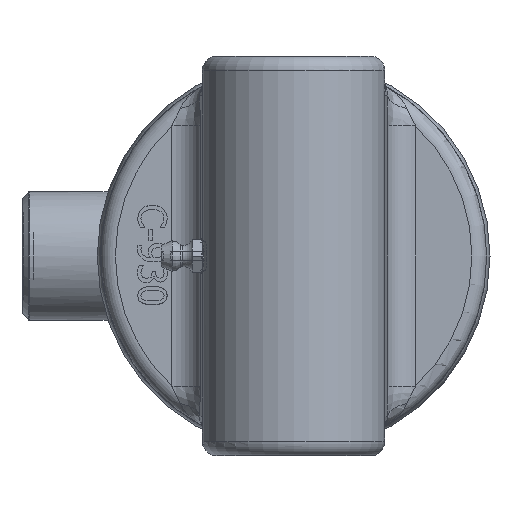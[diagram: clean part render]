
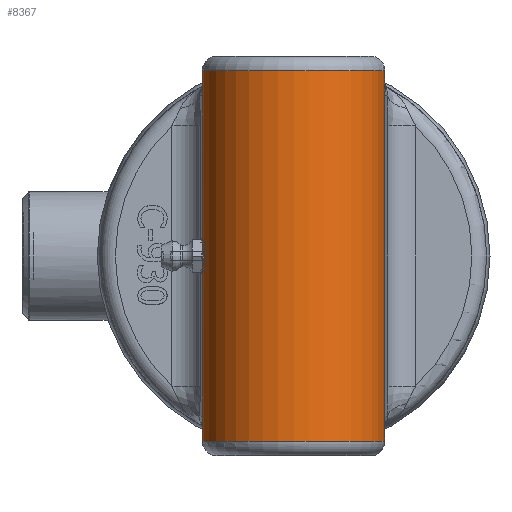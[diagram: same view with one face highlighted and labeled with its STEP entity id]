
A CAD part, left-side view. The second image highlights one B-rep face of the part: STEP entity #8367.
In plain terms, the highlighted cylindrical face has radius 20.32 mm (diameter 40.64 mm), a partial arc.
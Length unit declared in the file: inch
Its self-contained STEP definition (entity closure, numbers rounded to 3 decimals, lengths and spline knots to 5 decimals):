
#672=B_SPLINE_CURVE_WITH_KNOTS('',3,(#12557,#12558,#12559,#12560,#12561,
#12562,#12563,#12564,#12565,#12566,#12567,#12568,#12569,#12570,#12571),
 .UNSPECIFIED.,.F.,.F.,(4,2,2,3,2,2,4),(1.80622,1.89932,
2.0335,2.16768,2.30185,2.43603,2.52913),
 .UNSPECIFIED.);
#677=B_SPLINE_CURVE_WITH_KNOTS('',3,(#12640,#12641,#12642,#12643,#12644,
#12645,#12646,#12647),.UNSPECIFIED.,.F.,.F.,(4,1,1,2,4),(-1.41377,
-0.84826,-0.56551,0.,0.00179),
 .UNSPECIFIED.);
#678=B_SPLINE_CURVE_WITH_KNOTS('',3,(#12653,#12654,#12655,#12656,#12657,
#12658,#12659,#12660),.UNSPECIFIED.,.F.,.F.,(4,2,1,1,4),(-1.42444,
-1.42266,-0.85715,-0.5744,-0.00889),
 .UNSPECIFIED.);
#679=B_SPLINE_CURVE_WITH_KNOTS('',3,(#12664,#12665,#12666,#12667,#12668,
#12669,#12670,#12671),.UNSPECIFIED.,.F.,.F.,(4,1,1,2,4),(-1.41377,
-0.84826,-0.56551,0.,0.00179),
 .UNSPECIFIED.);
#680=B_SPLINE_CURVE_WITH_KNOTS('',3,(#12674,#12675,#12676,#12677,#12678,
#12679,#12680,#12681),.UNSPECIFIED.,.F.,.F.,(4,2,1,1,4),(-1.42444,
-1.42266,-0.85715,-0.5744,-0.00889),
 .UNSPECIFIED.);
#1294=LINE('',#12580,#1642);
#1296=LINE('',#12597,#1644);
#1298=LINE('',#12662,#1646);
#1642=VECTOR('',#10277,0.3937);
#1644=VECTOR('',#10283,0.3937);
#1646=VECTOR('',#10293,0.3937);
#1987=CYLINDRICAL_SURFACE('',#9268,0.8);
#2086=FACE_OUTER_BOUND('',#2613,.T.);
#2613=EDGE_LOOP('',(#5893,#5894,#5895,#5896,#5897,#5898,#5899,#5900,#5901,
#5902,#5903));
#3224=CIRCLE('',#9269,0.8);
#3225=CIRCLE('',#9270,0.8);
#3226=CIRCLE('',#9271,0.8);
#3719=VERTEX_POINT('',#12555);
#3720=VERTEX_POINT('',#12556);
#3723=VERTEX_POINT('',#12579);
#3728=VERTEX_POINT('',#12595);
#3731=VERTEX_POINT('',#12639);
#3732=VERTEX_POINT('',#12648);
#3733=VERTEX_POINT('',#12650);
#3734=VERTEX_POINT('',#12652);
#3735=VERTEX_POINT('',#12661);
#3736=VERTEX_POINT('',#12663);
#3737=VERTEX_POINT('',#12672);
#4550=EDGE_CURVE('',#3719,#3720,#672,.T.);
#4555=EDGE_CURVE('',#3719,#3723,#1294,.T.);
#4561=EDGE_CURVE('',#3728,#3720,#1296,.T.);
#4565=EDGE_CURVE('',#3731,#3728,#677,.T.);
#4566=EDGE_CURVE('',#3732,#3731,#3224,.T.);
#4567=EDGE_CURVE('',#3733,#3732,#3225,.T.);
#4568=EDGE_CURVE('',#3734,#3733,#678,.T.);
#4569=EDGE_CURVE('',#3734,#3735,#1298,.T.);
#4570=EDGE_CURVE('',#3736,#3735,#679,.T.);
#4571=EDGE_CURVE('',#3737,#3736,#3226,.T.);
#4572=EDGE_CURVE('',#3723,#3737,#680,.T.);
#5893=ORIENTED_EDGE('',*,*,#4550,.T.);
#5894=ORIENTED_EDGE('',*,*,#4561,.F.);
#5895=ORIENTED_EDGE('',*,*,#4565,.F.);
#5896=ORIENTED_EDGE('',*,*,#4566,.F.);
#5897=ORIENTED_EDGE('',*,*,#4567,.F.);
#5898=ORIENTED_EDGE('',*,*,#4568,.F.);
#5899=ORIENTED_EDGE('',*,*,#4569,.T.);
#5900=ORIENTED_EDGE('',*,*,#4570,.F.);
#5901=ORIENTED_EDGE('',*,*,#4571,.F.);
#5902=ORIENTED_EDGE('',*,*,#4572,.F.);
#5903=ORIENTED_EDGE('',*,*,#4555,.F.);
#8367=ADVANCED_FACE('',(#2086),#1987,.T.);
#9268=AXIS2_PLACEMENT_3D('',#12638,#10287,#10288);
#9269=AXIS2_PLACEMENT_3D('',#12649,#10289,#10290);
#9270=AXIS2_PLACEMENT_3D('',#12651,#10291,#10292);
#9271=AXIS2_PLACEMENT_3D('',#12673,#10294,#10295);
#10277=DIRECTION('',(0.,0.,1.));
#10283=DIRECTION('',(0.,0.,1.));
#10287=DIRECTION('center_axis',(0.,0.,1.));
#10288=DIRECTION('ref_axis',(-1.,0.,0.));
#10289=DIRECTION('center_axis',(0.,0.,-1.));
#10290=DIRECTION('ref_axis',(-1.,0.,0.));
#10291=DIRECTION('center_axis',(0.,0.,-1.));
#10292=DIRECTION('ref_axis',(-1.,0.,0.));
#10293=DIRECTION('',(0.,0.,1.));
#10294=DIRECTION('center_axis',(0.,0.,1.));
#10295=DIRECTION('ref_axis',(-1.,0.,0.));
#12555=CARTESIAN_POINT('',(-0.06972,0.79696,0.12601));
#12556=CARTESIAN_POINT('',(-0.06972,0.79696,-0.12601));
#12557=CARTESIAN_POINT('Ctrl Pts',(-0.06972,0.79696,
0.12601));
#12558=CARTESIAN_POINT('Ctrl Pts',(-0.08046,0.79602,
0.11899));
#12559=CARTESIAN_POINT('Ctrl Pts',(-0.09008,0.79495,
0.11046));
#12560=CARTESIAN_POINT('Ctrl Pts',(-0.10968,0.79253,
0.08811));
#12561=CARTESIAN_POINT('Ctrl Pts',(-0.11949,0.79105,
0.07176));
#12562=CARTESIAN_POINT('Ctrl Pts',(-0.1324,0.789,
0.03651));
#12563=CARTESIAN_POINT('Ctrl Pts',(-0.1355,0.78844,
0.01761));
#12564=CARTESIAN_POINT('Ctrl Pts',(-0.1355,0.78844,
0.));
#12565=CARTESIAN_POINT('Ctrl Pts',(-0.1355,0.78844,
-0.01761));
#12566=CARTESIAN_POINT('Ctrl Pts',(-0.1324,0.789,
-0.03651));
#12567=CARTESIAN_POINT('Ctrl Pts',(-0.11949,0.79105,
-0.07176));
#12568=CARTESIAN_POINT('Ctrl Pts',(-0.10968,0.79253,
-0.08811));
#12569=CARTESIAN_POINT('Ctrl Pts',(-0.09008,0.79495,
-0.11046));
#12570=CARTESIAN_POINT('Ctrl Pts',(-0.08046,0.79602,
-0.11899));
#12571=CARTESIAN_POINT('Ctrl Pts',(-0.06972,0.79696,
-0.12601));
#12579=CARTESIAN_POINT('',(-0.06972,0.79696,1.41));
#12580=CARTESIAN_POINT('',(-0.06972,0.79696,0.));
#12595=CARTESIAN_POINT('',(-0.06972,0.79696,-1.41));
#12597=CARTESIAN_POINT('',(-0.06972,0.79696,0.));
#12638=CARTESIAN_POINT('Origin',(0.,0.,0.));
#12639=CARTESIAN_POINT('',(0.36183,0.7135,-1.62));
#12640=CARTESIAN_POINT('Ctrl Pts',(0.36183,0.7135,
-1.62));
#12641=CARTESIAN_POINT('Ctrl Pts',(0.30641,0.7416,
-1.60293));
#12642=CARTESIAN_POINT('Ctrl Pts',(0.22061,0.77296,
-1.56621));
#12643=CARTESIAN_POINT('Ctrl Pts',(0.07561,0.80019,
-1.49229));
#12644=CARTESIAN_POINT('Ctrl Pts',(-0.01202,0.80197,
-1.44285));
#12645=CARTESIAN_POINT('Ctrl Pts',(-0.06936,0.79699,
-1.41021));
#12646=CARTESIAN_POINT('Ctrl Pts',(-0.06954,0.79697,
-1.41011));
#12647=CARTESIAN_POINT('Ctrl Pts',(-0.06972,0.79696,
-1.41));
#12648=CARTESIAN_POINT('',(-0.8,0.,-1.62));
#12649=CARTESIAN_POINT('Origin',(0.,0.,-1.62));
#12650=CARTESIAN_POINT('',(0.36183,-0.7135,-1.62));
#12651=CARTESIAN_POINT('Origin',(0.,0.,-1.62));
#12652=CARTESIAN_POINT('',(-0.06972,-0.79696,-1.41));
#12653=CARTESIAN_POINT('Ctrl Pts',(-0.06972,-0.79696,
-1.41));
#12654=CARTESIAN_POINT('Ctrl Pts',(-0.06954,-0.79697,
-1.41011));
#12655=CARTESIAN_POINT('Ctrl Pts',(-0.06936,-0.79699,
-1.41021));
#12656=CARTESIAN_POINT('Ctrl Pts',(-0.01203,-0.80197,
-1.44285));
#12657=CARTESIAN_POINT('Ctrl Pts',(0.07566,-0.80018,
-1.49233));
#12658=CARTESIAN_POINT('Ctrl Pts',(0.22056,-0.77298,
-1.56617));
#12659=CARTESIAN_POINT('Ctrl Pts',(0.30641,-0.7416,
-1.60293));
#12660=CARTESIAN_POINT('Ctrl Pts',(0.36183,-0.7135,
-1.62));
#12661=CARTESIAN_POINT('',(-0.06972,-0.79696,1.41));
#12662=CARTESIAN_POINT('',(-0.06972,-0.79696,0.));
#12663=CARTESIAN_POINT('',(0.36183,-0.7135,1.62));
#12664=CARTESIAN_POINT('Ctrl Pts',(0.36183,-0.7135,
1.62));
#12665=CARTESIAN_POINT('Ctrl Pts',(0.30641,-0.7416,
1.60293));
#12666=CARTESIAN_POINT('Ctrl Pts',(0.22061,-0.77296,
1.56621));
#12667=CARTESIAN_POINT('Ctrl Pts',(0.07561,-0.80019,
1.49229));
#12668=CARTESIAN_POINT('Ctrl Pts',(-0.01202,-0.80197,
1.44285));
#12669=CARTESIAN_POINT('Ctrl Pts',(-0.06936,-0.79699,
1.41021));
#12670=CARTESIAN_POINT('Ctrl Pts',(-0.06954,-0.79697,
1.41011));
#12671=CARTESIAN_POINT('Ctrl Pts',(-0.06972,-0.79696,
1.41));
#12672=CARTESIAN_POINT('',(0.36183,0.7135,1.62));
#12673=CARTESIAN_POINT('Origin',(0.,0.,1.62));
#12674=CARTESIAN_POINT('Ctrl Pts',(-0.06972,0.79696,
1.41));
#12675=CARTESIAN_POINT('Ctrl Pts',(-0.06954,0.79697,
1.41011));
#12676=CARTESIAN_POINT('Ctrl Pts',(-0.06936,0.79699,
1.41021));
#12677=CARTESIAN_POINT('Ctrl Pts',(-0.01203,0.80197,
1.44285));
#12678=CARTESIAN_POINT('Ctrl Pts',(0.07566,0.80018,
1.49233));
#12679=CARTESIAN_POINT('Ctrl Pts',(0.22056,0.77298,
1.56617));
#12680=CARTESIAN_POINT('Ctrl Pts',(0.30641,0.7416,
1.60293));
#12681=CARTESIAN_POINT('Ctrl Pts',(0.36183,0.7135,
1.62));
